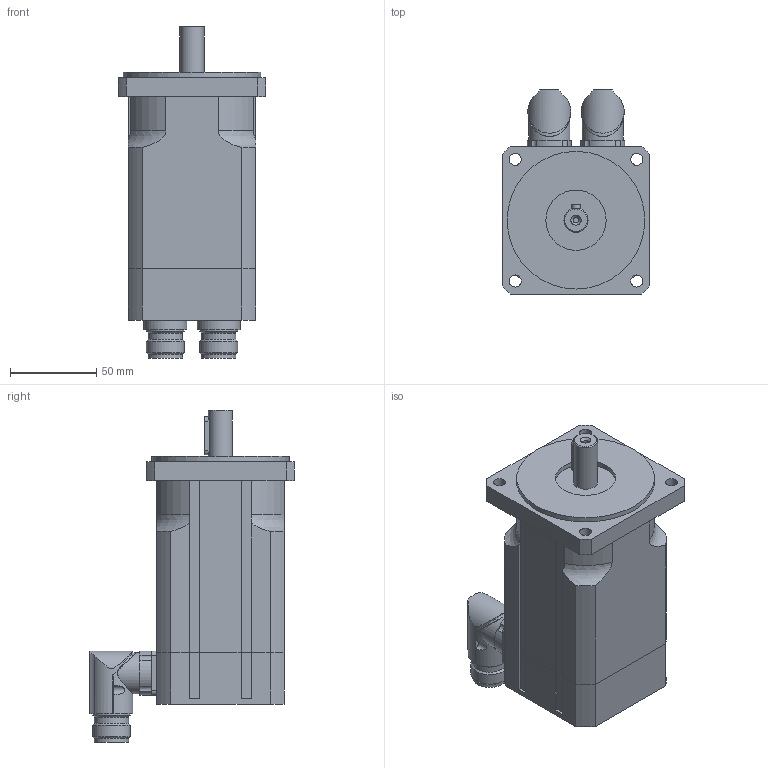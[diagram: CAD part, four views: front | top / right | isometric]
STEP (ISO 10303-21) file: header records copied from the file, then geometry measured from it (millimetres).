
FILE_DESCRIPTION(/* description */ ('Alibre Inc.'),/* implementation_level */ '2;1');
FILE_NAME(/* name */ 'export0',/* time_stamp */ '2011-08-11T11:51:03+02:00',/* author */ (''),/* organization */ (''),/* preprocessor_version */ 'ST-DEVELOPER v12',/* originating_system */ 'Alibre',/* authorisation */ '');
FILE_SCHEMA (('AUTOMOTIVE_DESIGN'));
Length unit declared in the file: millimetre
Products named in the file (5): ID_1
Bounding box: 86 x 119 x 193 mm (x, y, z)
Volume: 821891.3 mm3; surface area: 89963.4 mm2
Topology: 5 solids, 5 shells, 214 faces, 551 edges, 361 vertices
Faces by surface type: plane 95, cylinder 81, bspline 27, cone 7, torus 4
Full cylindrical faces by diameter (mm): 2.7 x8, 14 x1, 20 x6, 22 x4, 24 x2, 35 x1, 80 x1
Entity records: 5662 total; most frequent: CARTESIAN_POINT 1918, ORIENTED_EDGE 746, DIRECTION 679, EDGE_CURVE 373, AXIS2_PLACEMENT_3D 273, VERTEX_POINT 261, EDGE_LOOP 208, FACE_BOUND 208
